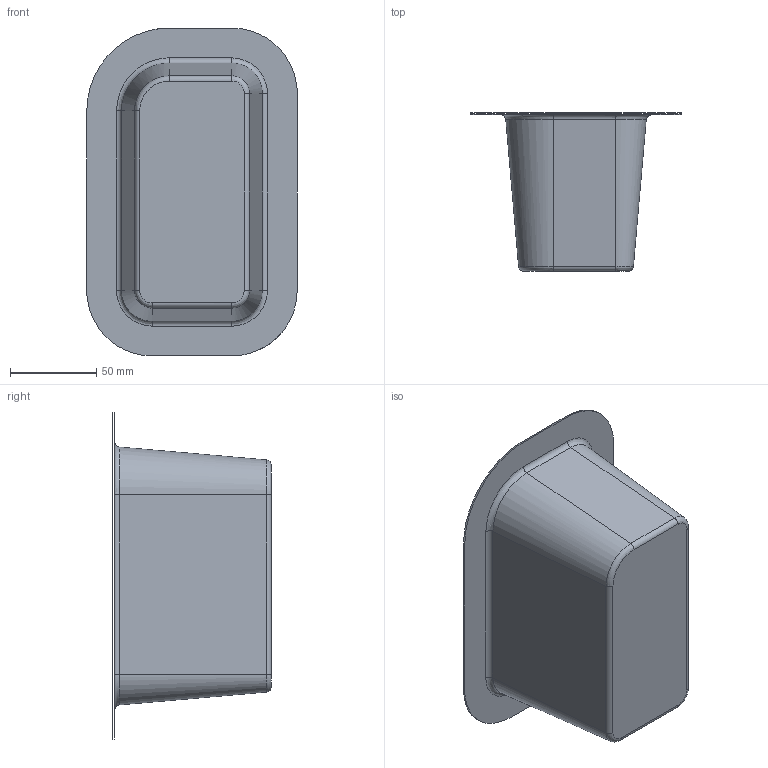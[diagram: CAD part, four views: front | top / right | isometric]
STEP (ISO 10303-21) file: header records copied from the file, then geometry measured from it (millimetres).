
FILE_DESCRIPTION(('CATIA V5 STEP Exchange'),'2;1');
FILE_NAME('C:\_Andres\UNIVERSIDAD\IQS\ASIGNATURAS\DAO\Controles\1617\c3\2inicio\Sastre_Cabrerizo_control3_v34.stp','2017-02-17T14:22:15+00:00',('none'),('none'),'CATIA Version 5-6 Release 2014 SP1 HF18','CATIA V5 STEP AP203','none');
FILE_SCHEMA(('CONFIG_CONTROL_DESIGN'));
Length unit declared in the file: millimetre
Products named in the file (1): Sastre_Cabrerizo_control3_v34
Bounding box: 121.86 x 91.65 x 189.86 mm (x, y, z)
Surface area: 76105 mm2 (no closed solid volume)
Topology: 0 solids, 2 shells, 27 faces, 80 edges, 57 vertices
Faces by surface type: bspline 16, cylinder 8, plane 3
Entity records: 1907 total; most frequent: CARTESIAN_POINT 1311, ORIENTED_EDGE 128, EDGE_CURVE 72, B_SPLINE_CURVE_WITH_KNOTS 54, DIRECTION 50, VERTEX_POINT 48, EDGE_LOOP 28, ADVANCED_FACE 27
